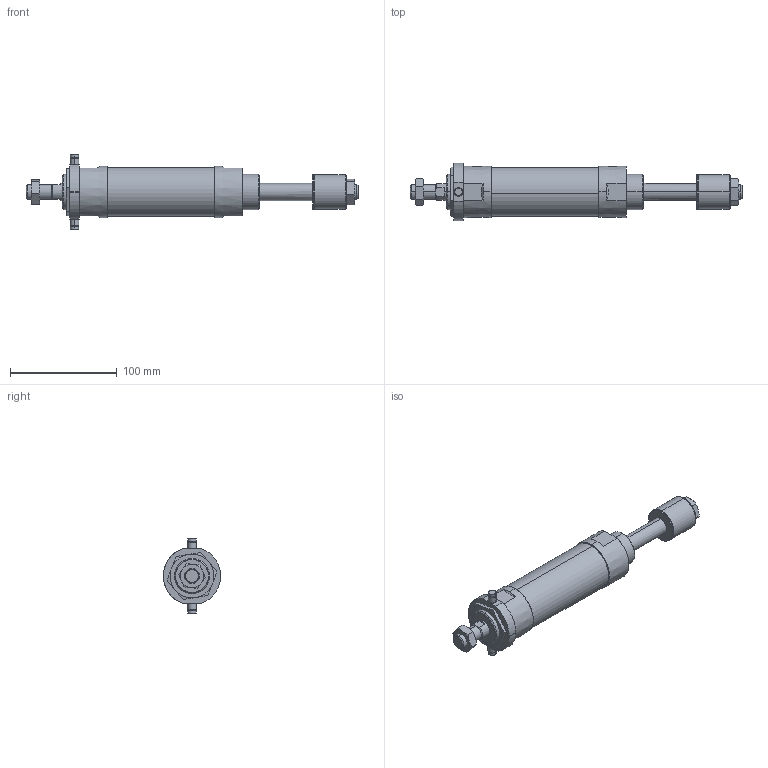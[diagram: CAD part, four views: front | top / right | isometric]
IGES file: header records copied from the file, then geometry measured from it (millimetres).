
Start section: SolidWorks IGES file using analytic representation for surfaces
Global section: file name: C:\Users\Toshiba\Desktop\JGA7-40-50-T.IGS; native system: SolidWorks 2014; preprocessor: SolidWorks 2014; author: Toshiba; date: 160420.095952; units: millimetre
Bounding box: 311.5 x 54 x 70 mm (x, y, z)
Surface area: 60065.2 mm2 (no closed solid volume)
Topology: 0 solids, 0 shells, 176 faces, 3368 edges, 3364 vertices
Faces by surface type: bspline 95, revolution 81
